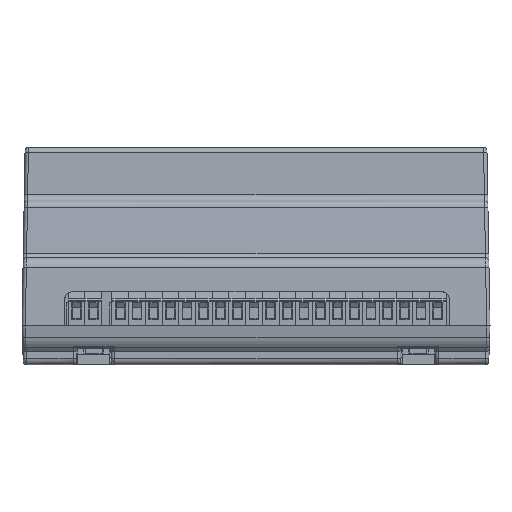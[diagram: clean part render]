
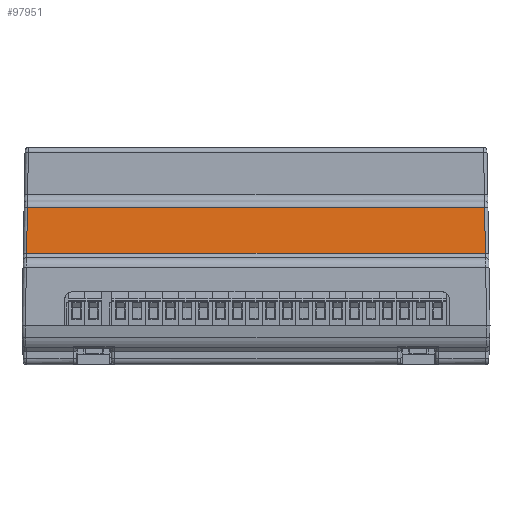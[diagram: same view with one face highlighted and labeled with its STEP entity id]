
A CAD part, left-side view. The second image highlights one B-rep face of the part: STEP entity #97951.
In plain terms, the highlighted planar face has unit normal (-0.996, 0, 0.087) as drawn and (0.996, 0, 0.087) by its records, which use the part's own axes.
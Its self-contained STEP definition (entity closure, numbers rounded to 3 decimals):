
#6779=FACE_OUTER_BOUND('',#11987,.T.);
#11987=EDGE_LOOP('',(#71811,#71812,#71813,#71814));
#18698=LINE('',#143559,#30653);
#19006=LINE('',#144600,#30961);
#19064=LINE('',#145704,#31019);
#19065=LINE('',#145763,#31020);
#30653=VECTOR('',#114154,10.);
#30961=VECTOR('',#114932,10.);
#31019=VECTOR('',#115190,10.);
#31020=VECTOR('',#115207,2.);
#42475=VERTEX_POINT('',#143556);
#42476=VERTEX_POINT('',#143558);
#42764=VERTEX_POINT('',#144598);
#42830=VERTEX_POINT('',#145699);
#53050=EDGE_CURVE('',#42475,#42476,#18698,.T.);
#53477=EDGE_CURVE('',#42476,#42764,#19006,.T.);
#53613=EDGE_CURVE('',#42830,#42475,#19064,.T.);
#53618=EDGE_CURVE('',#42764,#42830,#19065,.T.);
#71811=ORIENTED_EDGE('',*,*,#53618,.F.);
#71812=ORIENTED_EDGE('',*,*,#53477,.F.);
#71813=ORIENTED_EDGE('',*,*,#53050,.F.);
#71814=ORIENTED_EDGE('',*,*,#53613,.F.);
#93359=PLANE('',#103930);
#97951=ADVANCED_FACE('',(#6779),#93359,.T.);
#103930=AXIS2_PLACEMENT_3D('',#145762,#115205,#115206);
#114154=DIRECTION('',(0.,-1.,0.));
#114932=DIRECTION('',(-0.087,0.017,0.996));
#115190=DIRECTION('',(0.087,0.017,-0.996));
#115205=DIRECTION('center_axis',(0.996,0.,0.087));
#115206=DIRECTION('ref_axis',(0.087,0.,-0.996));
#115207=DIRECTION('',(0.,1.,0.));
#143556=CARTESIAN_POINT('',(34.048,103.623,33.369));
#143558=CARTESIAN_POINT('',(34.048,-33.623,33.369));
#143559=CARTESIAN_POINT('',(34.048,-35.,33.369));
#144598=CARTESIAN_POINT('',(32.84,-33.382,47.174));
#144600=CARTESIAN_POINT('',(35.358,-33.884,18.396));
#145699=CARTESIAN_POINT('',(32.84,103.382,47.174));
#145704=CARTESIAN_POINT('',(35.305,103.874,19.002));
#145762=CARTESIAN_POINT('Origin',(34.008,0.,33.826));
#145763=CARTESIAN_POINT('',(32.84,35.,47.174));
